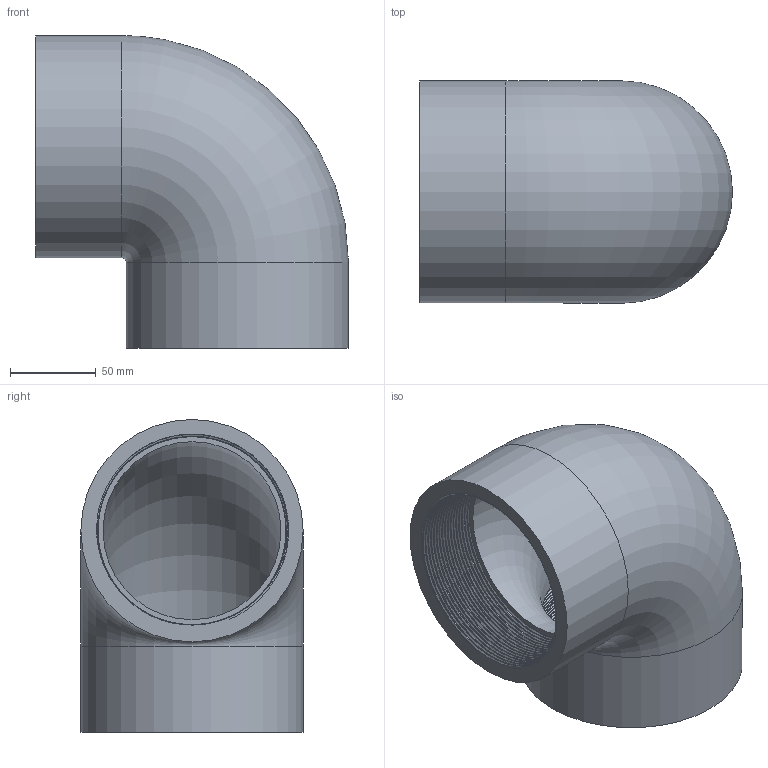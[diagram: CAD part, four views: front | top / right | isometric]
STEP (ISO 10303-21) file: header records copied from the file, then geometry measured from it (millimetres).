
FILE_DESCRIPTION(/* description */ ('PVC gomito a 90° filettato BSP femmina'),/* implementation_level */ '2;1');
FILE_NAME(/* name */ 'C:\Users\POLYPIPE\Desktop\DATASET INVENTOR\LIBRERIA EFFAST\RACCORDI 3DxWEB\RER\3D_RERGOE\3D_RERGOE110L.stp',/* time_stamp */ '2018-01-19T16:18:55+01:00',/* author */ ('POLYPIPE'),/* organization */ ('Polypipe Italia s.r.l.'),/* preprocessor_version */ 'ST-DEVELOPER v16.1',/* originating_system */ 'Autodesk Inventor 2016',/* authorisation */ '');
FILE_SCHEMA (('CONFIG_CONTROL_DESIGN'));
Length unit declared in the file: millimetre
Products named in the file (1): 3D_RERGOE
Bounding box: 183 x 130 x 183 mm (x, y, z)
Volume: 929472 mm3; surface area: 183649.8 mm2
Topology: 1 solids, 1 shells, 22 faces, 48 edges, 30 vertices
Faces by surface type: bspline 10, plane 6, cylinder 4, torus 2
Full cylindrical faces by diameter (mm): 130 x2
Entity records: 13715 total; most frequent: CARTESIAN_POINT 13280, ORIENTED_EDGE 92, DIRECTION 60, EDGE_CURVE 44, EDGE_LOOP 30, VERTEX_POINT 30, AXIS2_PLACEMENT_3D 27, B_SPLINE_CURVE_WITH_KNOTS 24
